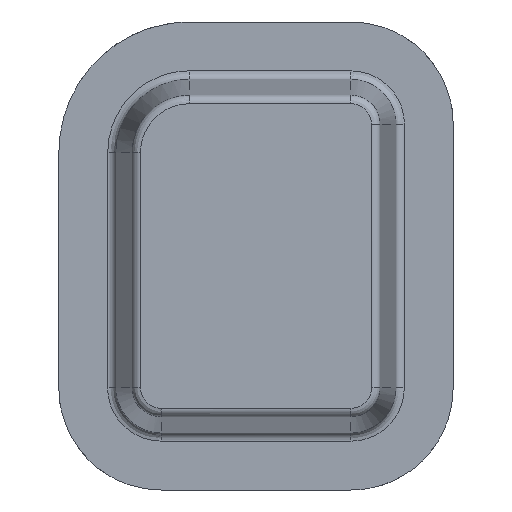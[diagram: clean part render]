
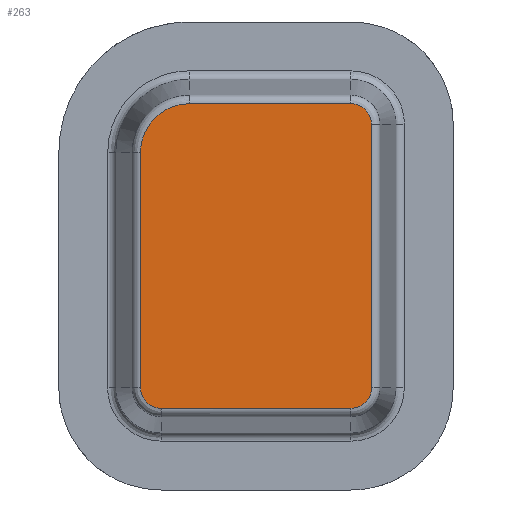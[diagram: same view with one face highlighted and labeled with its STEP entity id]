
A CAD part, front view. The second image highlights one B-rep face of the part: STEP entity #263.
In plain terms, the highlighted planar face has unit normal (0, -1, 0).
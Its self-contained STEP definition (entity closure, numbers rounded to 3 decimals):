
#144=CARTESIAN_POINT('Axis2P3D Location',(44.58,0.,55.42)) ;
#149=CARTESIAN_POINT('Line Origine',(2.749,0.,51.5)) ;
#153=CARTESIAN_POINT('Vertex',(2.749,0.,93.)) ;
#155=CARTESIAN_POINT('Vertex',(2.749,0.,10.)) ;
#159=CARTESIAN_POINT('Control Point',(2.749,0.,10.)) ;
#160=CARTESIAN_POINT('Control Point',(2.749,0.,9.039)) ;
#161=CARTESIAN_POINT('Control Point',(2.908,0.,8.077)) ;
#162=CARTESIAN_POINT('Control Point',(3.227,0.,7.152)) ;
#163=CARTESIAN_POINT('Control Point',(4.157,0.,5.443)) ;
#164=CARTESIAN_POINT('Control Point',(5.589,0.,4.124)) ;
#165=CARTESIAN_POINT('Control Point',(6.408,0.,3.59)) ;
#166=CARTESIAN_POINT('Control Point',(7.599,0.,3.072)) ;
#167=CARTESIAN_POINT('Control Point',(8.859,0.,2.828)) ;
#168=CARTESIAN_POINT('Control Point',(9.178,0.,2.785)) ;
#169=CARTESIAN_POINT('Control Point',(9.535,0.,2.756)) ;
#170=CARTESIAN_POINT('Control Point',(9.891,0.,2.75)) ;
#171=CARTESIAN_POINT('Control Point',(9.928,0.,2.749)) ;
#172=CARTESIAN_POINT('Control Point',(9.964,0.,2.749)) ;
#173=CARTESIAN_POINT('Control Point',(10.,0.,2.749)) ;
#174=CARTESIAN_POINT('Vertex',(10.,0.,2.749)) ;
#177=CARTESIAN_POINT('Line Origine',(43.5,0.,2.749)) ;
#181=CARTESIAN_POINT('Vertex',(77.,0.,2.749)) ;
#185=CARTESIAN_POINT('Control Point',(77.,0.,2.749)) ;
#186=CARTESIAN_POINT('Control Point',(77.961,0.,2.749)) ;
#187=CARTESIAN_POINT('Control Point',(78.923,0.,2.908)) ;
#188=CARTESIAN_POINT('Control Point',(79.848,0.,3.227)) ;
#189=CARTESIAN_POINT('Control Point',(81.557,0.,4.157)) ;
#190=CARTESIAN_POINT('Control Point',(82.876,0.,5.589)) ;
#191=CARTESIAN_POINT('Control Point',(83.41,0.,6.408)) ;
#192=CARTESIAN_POINT('Control Point',(83.928,0.,7.599)) ;
#193=CARTESIAN_POINT('Control Point',(84.172,0.,8.859)) ;
#194=CARTESIAN_POINT('Control Point',(84.215,0.,9.178)) ;
#195=CARTESIAN_POINT('Control Point',(84.244,0.,9.535)) ;
#196=CARTESIAN_POINT('Control Point',(84.25,0.,9.891)) ;
#197=CARTESIAN_POINT('Control Point',(84.251,0.,9.928)) ;
#198=CARTESIAN_POINT('Control Point',(84.251,0.,9.964)) ;
#199=CARTESIAN_POINT('Control Point',(84.251,0.,10.)) ;
#200=CARTESIAN_POINT('Vertex',(84.251,0.,10.)) ;
#203=CARTESIAN_POINT('Line Origine',(84.251,0.,56.5)) ;
#207=CARTESIAN_POINT('Vertex',(84.251,0.,103.)) ;
#211=CARTESIAN_POINT('Control Point',(84.251,0.,103.)) ;
#212=CARTESIAN_POINT('Control Point',(84.251,0.,103.961)) ;
#213=CARTESIAN_POINT('Control Point',(84.092,0.,104.923)) ;
#214=CARTESIAN_POINT('Control Point',(83.773,0.,105.848)) ;
#215=CARTESIAN_POINT('Control Point',(82.843,0.,107.557)) ;
#216=CARTESIAN_POINT('Control Point',(81.411,0.,108.876)) ;
#217=CARTESIAN_POINT('Control Point',(80.592,0.,109.41)) ;
#218=CARTESIAN_POINT('Control Point',(79.401,0.,109.928)) ;
#219=CARTESIAN_POINT('Control Point',(78.141,0.,110.172)) ;
#220=CARTESIAN_POINT('Control Point',(77.822,0.,110.215)) ;
#221=CARTESIAN_POINT('Control Point',(77.465,0.,110.244)) ;
#222=CARTESIAN_POINT('Control Point',(77.109,0.,110.25)) ;
#223=CARTESIAN_POINT('Control Point',(77.072,0.,110.251)) ;
#224=CARTESIAN_POINT('Control Point',(77.036,0.,110.251)) ;
#225=CARTESIAN_POINT('Control Point',(77.,0.,110.251)) ;
#226=CARTESIAN_POINT('Vertex',(77.,0.,110.251)) ;
#229=CARTESIAN_POINT('Line Origine',(48.5,0.,110.251)) ;
#233=CARTESIAN_POINT('Vertex',(20.,0.,110.251)) ;
#237=CARTESIAN_POINT('Control Point',(20.,0.,110.251)) ;
#238=CARTESIAN_POINT('Control Point',(18.077,0.,110.251)) ;
#239=CARTESIAN_POINT('Control Point',(16.154,0.,109.983)) ;
#240=CARTESIAN_POINT('Control Point',(14.282,0.,109.447)) ;
#241=CARTESIAN_POINT('Control Point',(10.736,0.,107.869)) ;
#242=CARTESIAN_POINT('Control Point',(7.758,0.,105.383)) ;
#243=CARTESIAN_POINT('Control Point',(6.451,0.,103.938)) ;
#244=CARTESIAN_POINT('Control Point',(4.493,0.,101.045)) ;
#245=CARTESIAN_POINT('Control Point',(3.313,0.,97.768)) ;
#246=CARTESIAN_POINT('Control Point',(2.954,0.,96.259)) ;
#247=CARTESIAN_POINT('Control Point',(2.762,0.,94.685)) ;
#248=CARTESIAN_POINT('Control Point',(2.749,0.,93.109)) ;
#249=CARTESIAN_POINT('Control Point',(2.749,0.,93.073)) ;
#250=CARTESIAN_POINT('Control Point',(2.749,0.,93.036)) ;
#251=CARTESIAN_POINT('Control Point',(2.749,0.,93.)) ;
#145=DIRECTION('Axis2P3D Direction',(0.,-1.,0.)) ;
#146=DIRECTION('Axis2P3D XDirection',(0.106,0.,0.994)) ;
#150=DIRECTION('Vector Direction',(0.,0.,1.)) ;
#178=DIRECTION('Vector Direction',(1.,0.,0.)) ;
#204=DIRECTION('Vector Direction',(0.,0.,1.)) ;
#230=DIRECTION('Vector Direction',(-1.,0.,0.)) ;
#147=AXIS2_PLACEMENT_3D('Plane Axis2P3D',#144,#145,#146) ;
#254=ORIENTED_EDGE('',*,*,#157,.T.) ;
#255=ORIENTED_EDGE('',*,*,#176,.T.) ;
#256=ORIENTED_EDGE('',*,*,#183,.T.) ;
#257=ORIENTED_EDGE('',*,*,#202,.T.) ;
#258=ORIENTED_EDGE('',*,*,#209,.T.) ;
#259=ORIENTED_EDGE('',*,*,#228,.T.) ;
#260=ORIENTED_EDGE('',*,*,#235,.T.) ;
#261=ORIENTED_EDGE('',*,*,#252,.T.) ;
#151=VECTOR('Line Direction',#150,1.) ;
#179=VECTOR('Line Direction',#178,1.) ;
#205=VECTOR('Line Direction',#204,1.) ;
#231=VECTOR('Line Direction',#230,1.) ;
#263=ADVANCED_FACE('base',(#262),#148,.T.) ;
#158=B_SPLINE_CURVE_WITH_KNOTS('',5,(#159,#160,#161,#162,#163,#164,#165,#166,#167,#168,#169,#170,#171,#172,#173),.UNSPECIFIED.,.F.,.U.,(6,3,3,3,6),(27.892,37.994,48.102,51.471,51.852),.UNSPECIFIED.) ;
#184=B_SPLINE_CURVE_WITH_KNOTS('',5,(#185,#186,#187,#188,#189,#190,#191,#192,#193,#194,#195,#196,#197,#198,#199),.UNSPECIFIED.,.F.,.U.,(6,3,3,3,6),(27.892,37.995,48.102,51.471,51.852),.UNSPECIFIED.) ;
#210=B_SPLINE_CURVE_WITH_KNOTS('',5,(#211,#212,#213,#214,#215,#216,#217,#218,#219,#220,#221,#222,#223,#224,#225),.UNSPECIFIED.,.F.,.U.,(6,3,3,3,6),(27.893,37.995,48.103,51.472,51.852),.UNSPECIFIED.) ;
#236=B_SPLINE_CURVE_WITH_KNOTS('',5,(#237,#238,#239,#240,#241,#242,#243,#244,#245,#246,#247,#248,#249,#250,#251),.UNSPECIFIED.,.F.,.U.,(6,3,3,3,6),(39.934,56.072,72.229,85.146,85.452),.UNSPECIFIED.) ;
#157=EDGE_CURVE('',#154,#156,#152,.F.) ;
#176=EDGE_CURVE('',#156,#175,#158,.T.) ;
#183=EDGE_CURVE('',#175,#182,#180,.T.) ;
#202=EDGE_CURVE('',#182,#201,#184,.T.) ;
#209=EDGE_CURVE('',#201,#208,#206,.T.) ;
#228=EDGE_CURVE('',#208,#227,#210,.T.) ;
#235=EDGE_CURVE('',#227,#234,#232,.T.) ;
#252=EDGE_CURVE('',#234,#154,#236,.T.) ;
#253=EDGE_LOOP('',(#254,#255,#256,#257,#258,#259,#260,#261)) ;
#262=FACE_OUTER_BOUND('',#253,.T.) ;
#152=LINE('Line',#149,#151) ;
#180=LINE('Line',#177,#179) ;
#206=LINE('Line',#203,#205) ;
#232=LINE('Line',#229,#231) ;
#148=PLANE('',#147) ;
#154=VERTEX_POINT('',#153) ;
#156=VERTEX_POINT('',#155) ;
#175=VERTEX_POINT('',#174) ;
#182=VERTEX_POINT('',#181) ;
#201=VERTEX_POINT('',#200) ;
#208=VERTEX_POINT('',#207) ;
#227=VERTEX_POINT('',#226) ;
#234=VERTEX_POINT('',#233) ;
